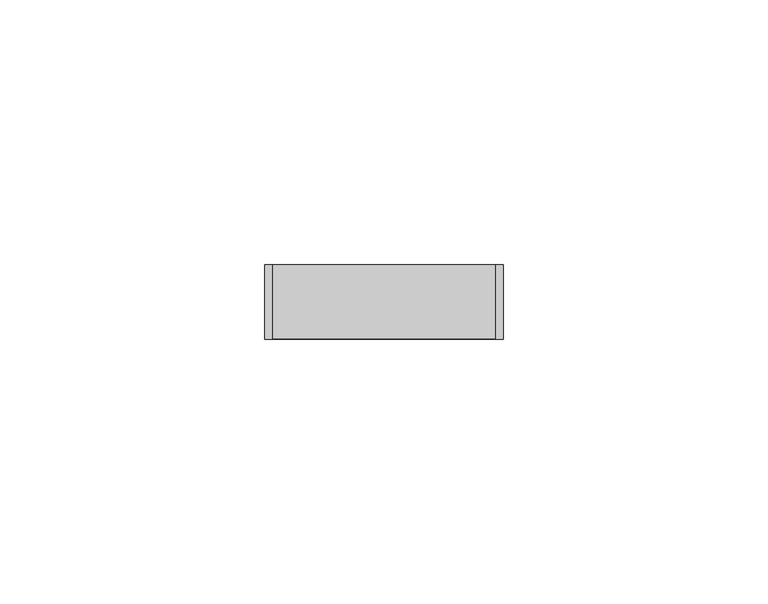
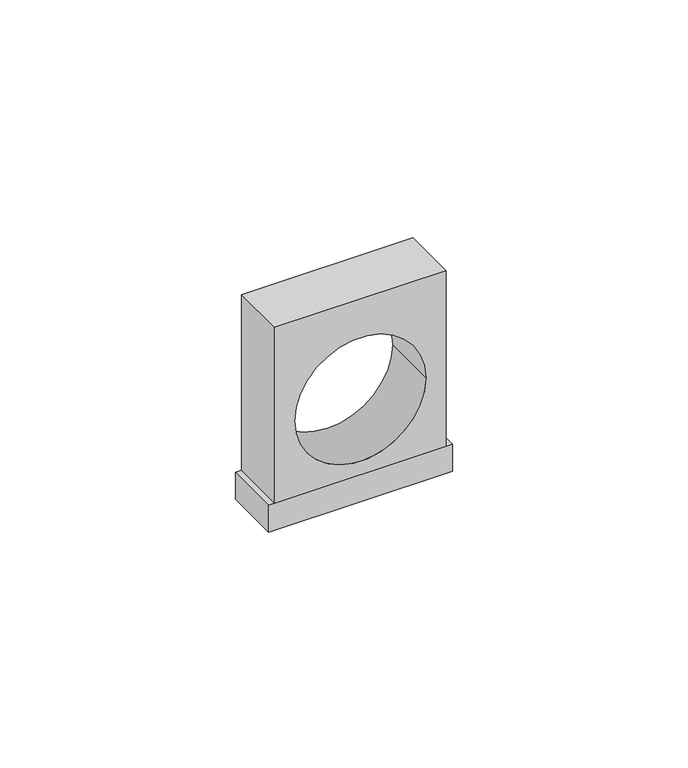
"""IFC4 building model written with IfcOpenShell, lengths in millimetres: cable carrier fitting geometry, КНС_ДержательРаздвижной_DKC : д.20 - 32мм."""

from ifc_helpers import new_model, si_unit, point, frame, frame_2d, origin, origin_with_axes, place, context, project, spatial, polyline, circle_curve, trimmed, segment, composite_curve, outline, extrude, source, transform, mapped, element, save


def cable_carrier_fitting_54e21223(model_context):
    return source(origin(), model_context, "Body", "SweptSolid", [
        extrude(outline(polyline([(52.5, 21.0), (52.5, -21.0), (7.0, -21.0), (7.0, 21.0), (52.5, 21.0)]), holes=[composite_curve([segment(trimmed(circle_curve(frame_2d((26.5, 0.0)), 16.0), [point((26.5, -16.0))], [point((26.5, 16.0))], True, "CARTESIAN"), True, "CONTINUOUS"), segment(trimmed(circle_curve(frame_2d((26.5, 0.0)), 16.0), [point((26.5, 16.0))], [point((26.5, -16.0))], True, "CARTESIAN"), True, "CONTINUOUS")], self_intersect=False)]), frame((0.0, -7.0, 0.0), z_axis=(0.0, 1.0, 0.0), x_axis=(0.0, 0.0, 1.0)), (0.0, 0.0, 1.0), 14.0),
        extrude(outline(polyline([(22.5, -7.0), (-22.5, -7.0), (-22.5, 7.0), (22.5, 7.0), (22.5, -7.0)])), origin_with_axes(), (0.0, 0.0, 1.0), 7.0),
    ])


if __name__ == "__main__":
    model = new_model("IFC4")
    model_context = context("Model", 3, world=origin())
    ifc_project = project(units=[si_unit("LENGTHUNIT", "METRE", prefix="MILLI")], contexts=[model_context])
    site = spatial("IfcSite", under=ifc_project)
    building = spatial("IfcBuilding", under=site)
    placement = place(None, origin())
    cable_carrier_fitting_shape = cable_carrier_fitting_54e21223(model_context)
    element("IfcCableCarrierFitting", 1, ObjectType="КНС_ДержательРаздвижной_DKC : д.20 - 32мм", at=placement, inside=building, context=model_context, shape_type="MappedRepresentation", body=[
        mapped(cable_carrier_fitting_shape, transform((0.0, 0.0, 0.0), x_axis=(1.0, 0.0, 0.0), y_axis=(0.0, 1.0, 0.0), z_axis=(0.0, 0.0, 1.0))),
    ])
    save(model, "model.ifc")
